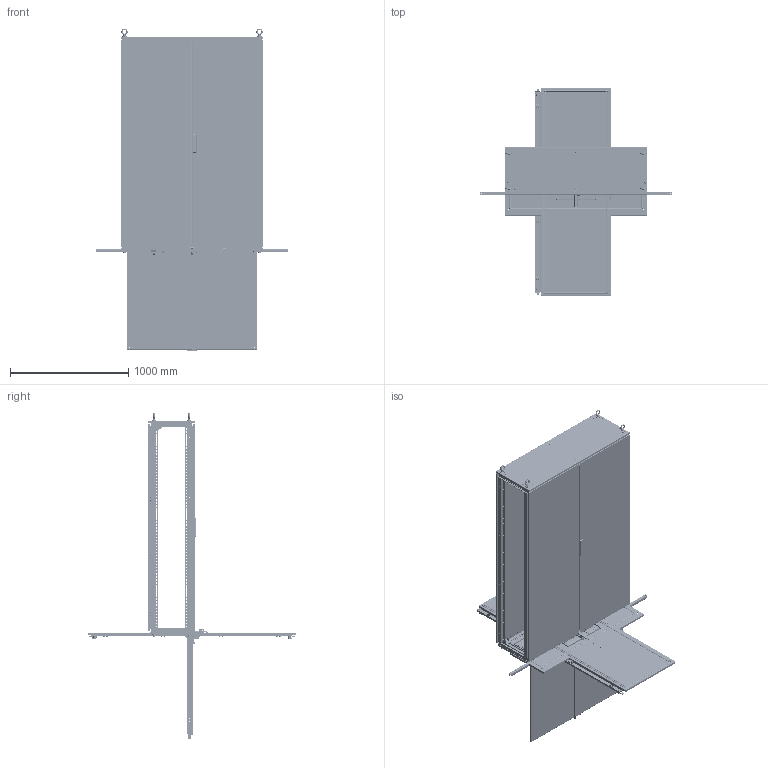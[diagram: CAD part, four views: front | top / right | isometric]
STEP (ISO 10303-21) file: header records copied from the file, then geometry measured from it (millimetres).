
FILE_DESCRIPTION( ( 'Unknown' ), '1' );
FILE_NAME( 'O:/HME PROJECT/HMET/STP/HMET18124.stp', 'Unknown', ( 'Unknown' ), ( 'Unknown' ), 'PSStep 13.0', 'Unknown', ' ' );
FILE_SCHEMA( ( 'AUTOMOTIVE_DESIGN { 1 0 10303 214 1 1 1 1 }' ) );
Length unit declared in the file: millimetre
Products named in the file (115): COM70279; COM70278; COM70277; COM70268-15; COM70272-15; COM70255-5; LOK86172; DOORGUIDE_KIT; AKT90813_ BOLT ASSY; COM70254-5; LOC13382; COM70276; COM70253-5; COM70252-5; SPACER_ASSY; Assem1; COM70256-3; COM70245-7; COM70273-15; COM70266-6; LOK86172CAM; LOK86172SCREW; HNG14571-1; STD21879; STD21878; STD26152; HMETSLAVEDOORGSKT1812; HMEBOTTOMGSKT124; HMEGLANDPLATEGSKT64; HMEGLANDPLATEGSKT64-oa4; ROL18053; ROL18053-oa6; ROL18054; ROL18054-oa7; PFRDOORGUIDE; SCS19357; HMETMASTERDOORGSKT1812; LOC13382B; LOC13382E; LOC13382A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
Bounding box: 1625 x 1752.6 x 2758.11 mm (x, y, z)
Volume: 61058564.6 mm3; surface area: 61158116.7 mm2
Topology: 757 solids, 760 shells, 26583 faces, 71474 edges, 47141 vertices
Faces by surface type: plane 15915, cylinder 7917, torus 1092, cone 1082, bspline 454, extrusion 88, sphere 35
Full cylindrical faces by diameter (mm): 2.464 x12, 3 x3, 3.7 x9, 3.967 x25, 4.013 x48, 4.039 x12, 4.216 x12, 4.318 x12, 4.4 x7, 4.623 x17, 4.699 x9, 4.75 x33, 4.763 x1119, 4.77 x33, 4.775 x783, 4.826 x21, 4.9 x7, 4.92 x33, 4.928 x12, 4.976 x55, 4.99 x3, 5 x3, 5.08 x12, 5.1 x8, 5.105 x18, 5.3 x18, 5.893 x12, 5.9 x7, 5.994 x10, 6 x69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
Entity records: 147352 total; most frequent: CARTESIAN_POINT 28568, DIRECTION 22320, ORIENTED_EDGE 21368, EDGE_CURVE 10684, AXIS2_PLACEMENT_3D 7446, VECTOR 7428, LINE 7400, VERTEX_POINT 7379
